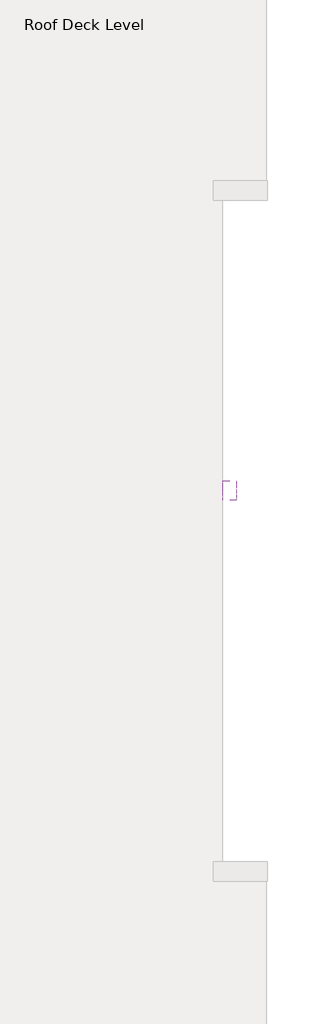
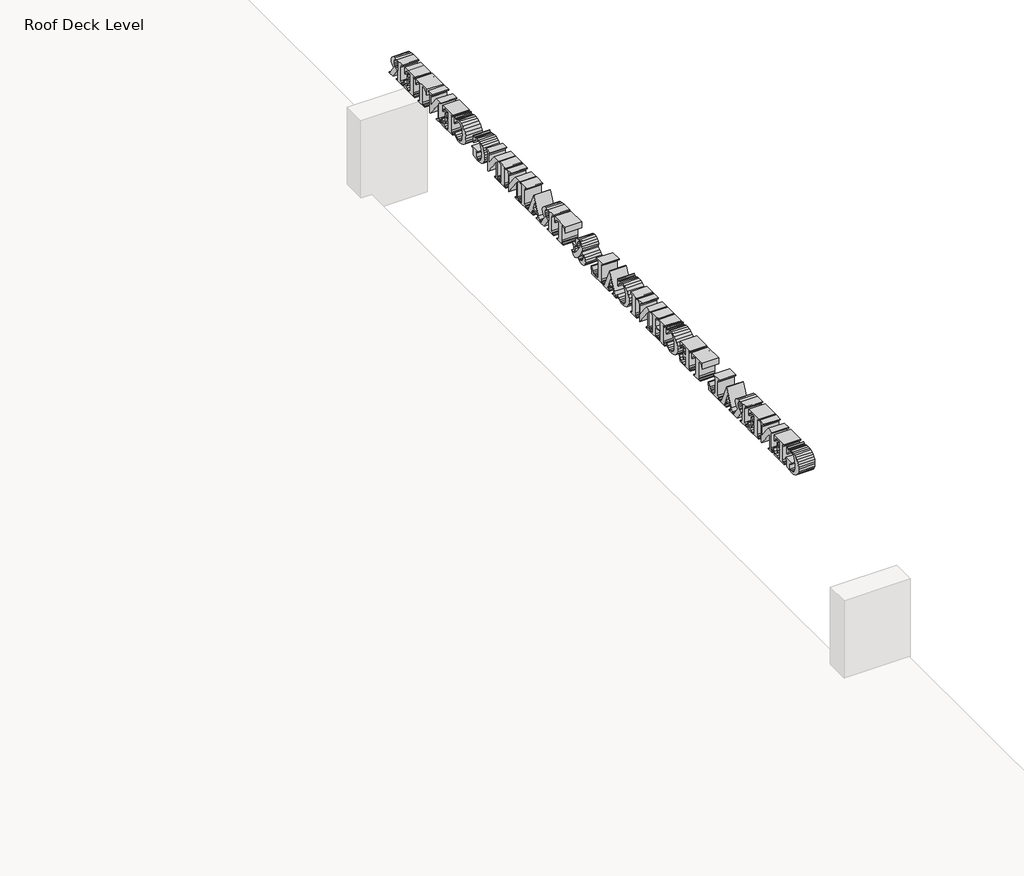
# One storey, part 2 of 2: 1 proxy.
"""IFC4 building model written with IfcOpenShell, lengths in millimetres."""

import ifcopenshell
import ifcopenshell.guid

model = None  # the IFC model being written
_history = None  # IfcOwnerHistory: only IFC2X3 demands one
_inside = {}  # id of a spatial element -> (the spatial element, [elements in it])
_under = {}  # id of a project, library or spatial element -> (it, [spatial elements below it])
_declared = {}  # id of a project -> (the project, [libraries it declares])
_typed = {}  # id of a type object -> (the type object, [elements of that type])
_made_of = {}  # id of a material, layer set ... -> (it, [elements and type objects made of it])


def new_model(schema):
    """Start an empty IFC model of exactly this schema.

    Asked for "IFC4X3", IfcOpenShell would pick the latest addendum, in which some entities
    have other attributes; the version numbers below select the first issue.
    IFC2X3 requires an IfcOwnerHistory on every rooted entity: one is made here for all.
    """
    global model, _history
    if schema == "IFC4X3":
        model = ifcopenshell.file(schema_version=(4, 3, 0, 0))
    else:
        model = ifcopenshell.file(schema=schema)
    _inside.clear()
    _under.clear()
    _declared.clear()
    _typed.clear()
    _made_of.clear()
    _history = None
    if model.schema == "IFC2X3":
        org = make("IfcOrganization", Name="unknown")
        user = make(
            "IfcPersonAndOrganization",
            ThePerson=make("IfcPerson", FamilyName="unknown"),
            TheOrganization=org,
        )
        app = make(
            "IfcApplication",
            ApplicationDeveloper=org,
            Version="unknown",
            ApplicationFullName="unknown",
            ApplicationIdentifier="unknown",
        )
        _history = make(
            "IfcOwnerHistory",
            OwningUser=user,
            OwningApplication=app,
            ChangeAction="ADDED",
            CreationDate=0,
        )
    return model


def make(cls, **values):
    """One entity of the class cls with the attributes given. An attribute that is None is left unset."""
    return model.create_entity(
        cls, **{name: value for name, value in values.items() if value is not None}
    )


def rooted(cls, **values):
    """An entity with a GlobalId (a new one), such as an element, a storey or a relation."""
    return make(cls, GlobalId=ifcopenshell.guid.new(), OwnerHistory=_history, **values)


def si_unit(unit_type, name, prefix=None):
    """IfcSIUnit, for example si_unit("LENGTHUNIT", "METRE", prefix="MILLI")."""
    return make("IfcSIUnit", UnitType=unit_type, Prefix=prefix, Name=name)


def assignment(units):
    """IfcUnitAssignment: the units of a project."""
    return None if units is None else make("IfcUnitAssignment", Units=units)


def point(xyz):
    """IfcCartesianPoint."""
    return None if xyz is None else make("IfcCartesianPoint", Coordinates=xyz)


def direction(xyz):
    """IfcDirection."""
    return None if xyz is None else make("IfcDirection", DirectionRatios=xyz)


def frame(location, z_axis=None, x_axis=None):
    """IfcAxis2Placement3D, a coordinate frame: its origin and axes. An axis left out is left unset."""
    return make(
        "IfcAxis2Placement3D",
        Location=point(location),
        Axis=direction(z_axis),
        RefDirection=direction(x_axis),
    )


def origin():
    """The frame at (0, 0, 0) with its axes left unset."""
    return frame((0.0, 0.0, 0.0))


def place(relative_to, where):
    """IfcLocalPlacement: puts the frame where relative to a parent placement (None: the world)."""
    return make(
        "IfcLocalPlacement", PlacementRelTo=relative_to, RelativePlacement=where
    )


def context(
    kind, dimensions, precision=None, world=None, true_north=None, identifier=None
):
    """IfcGeometricRepresentationContext, for example the 3D "Model" context."""
    return make(
        "IfcGeometricRepresentationContext",
        ContextIdentifier=identifier,
        ContextType=kind,
        CoordinateSpaceDimension=dimensions,
        Precision=precision,
        WorldCoordinateSystem=world,
        TrueNorth=true_north,
    )


def project(units=None, contexts=None):
    """IfcProject with its units and contexts."""
    return rooted(
        "IfcProject",
        Name="project",
        RepresentationContexts=contexts,
        UnitsInContext=assignment(units),
    )


def spatial(cls, under=None, at=None, **own):
    """A site, building, storey or space (cls), placed at a placement, below another one or the project."""
    s = rooted(cls, ObjectPlacement=at, **own)
    if under is not None:
        _under.setdefault(under.id(), (under, []))[1].append(s)
    return s


def polyline(points):
    """IfcPolyline through the points."""
    return make("IfcPolyline", Points=[point(p) for p in points])


def outline(outer, holes=None, kind="AREA"):
    """IfcArbitraryClosedProfileDef: a profile drawn as a closed curve; with holes, ...WithVoids."""
    if holes is None:
        return make("IfcArbitraryClosedProfileDef", ProfileType=kind, OuterCurve=outer)
    return make(
        "IfcArbitraryProfileDefWithVoids",
        ProfileType=kind,
        OuterCurve=outer,
        InnerCurves=holes,
    )


def extrude(swept, where, along, depth):
    """IfcExtrudedAreaSolid: the profile swept, set in the frame where, extruded along a direction by depth."""
    return make(
        "IfcExtrudedAreaSolid",
        SweptArea=swept,
        Position=where,
        ExtrudedDirection=direction(along),
        Depth=depth,
    )


def shape(context_of_items, identifier, shape_type, items):
    """IfcShapeRepresentation: the items that make up one representation, for example the "Body"."""
    return make(
        "IfcShapeRepresentation",
        ContextOfItems=context_of_items,
        RepresentationIdentifier=identifier,
        RepresentationType=shape_type,
        Items=items,
    )


def made_of(thing, what):
    """Note that an element or type object is made of a material, layer set ...; save() writes the relation."""
    if what is not None:
        _made_of.setdefault(what.id(), (what, []))[1].append(thing)
    return thing


def element(
    cls,
    number,
    at=None,
    inside=None,
    cuts=None,
    type_object=None,
    material=None,
    context=None,
    identifier="Body",
    shape_type=None,
    held_by="IfcProductDefinitionShape",
    body=None,
    shapes=None,
    **own,
):
    """One element of the class cls, such as IfcWall. Its Tag is "e" and its number.

    at: its placement. inside: the storey or other place that contains it. cuts: it is an
    opening in that element (IfcRelVoidsElement). A single representation is given by context,
    identifier, shape_type and body (its items); several are given by shapes. held_by: the class
    of the entity that holds the representations. save() writes the other relations.
    """
    e = rooted(cls, Tag="e%d" % number, ObjectPlacement=at, **own)
    if body is not None:
        shapes = [shape(context, identifier, shape_type, body)]
    if shapes is not None:
        e.Representation = make(held_by, Representations=shapes)
    if inside is not None:
        _inside.setdefault(inside.id(), (inside, []))[1].append(e)
    if cuts is not None:
        rooted(
            "IfcRelVoidsElement", RelatingBuildingElement=cuts, RelatedOpeningElement=e
        )
    if type_object is not None:
        _typed.setdefault(type_object.id(), (type_object, []))[1].append(e)
    return made_of(e, material)


def aggregate(whole, parts):
    """IfcRelAggregates: a whole, such as a stair, and the parts it consists of."""
    return rooted("IfcRelAggregates", RelatingObject=whole, RelatedObjects=parts)


def save(model, path):
    """Write the relations noted so far, then the file.

    IfcRelAggregates (storeys below a building ...), IfcRelContainedInSpatialStructure (elements
    in a storey), IfcRelDefinesByType, IfcRelAssociatesMaterial and IfcRelDeclares: one each for
    every whole, place, type object, material and project.
    """
    for whole, parts in _under.values():
        aggregate(whole, parts)
    for where, things in _inside.values():
        rooted(
            "IfcRelContainedInSpatialStructure",
            RelatedElements=things,
            RelatingStructure=where,
        )
    for kind, things in _typed.values():
        rooted("IfcRelDefinesByType", RelatedObjects=things, RelatingType=kind)
    for what, things in _made_of.values():
        rooted("IfcRelAssociatesMaterial", RelatedObjects=things, RelatingMaterial=what)
    for by, libraries in _declared.values():
        rooted("IfcRelDeclares", RelatingContext=by, RelatedDefinitions=libraries)
    model.write(path)


model = new_model("IFC4")

# Units and contexts
model_context = context("Model", 3, world=origin())
ifc_project = project(units=[si_unit("LENGTHUNIT", "METRE", prefix="MILLI")], contexts=[model_context])

# Site, building, storey
site = spatial("IfcSite", under=ifc_project)
building = spatial("IfcBuilding", under=site)
storey = spatial("IfcBuildingStorey", under=building, Name="Roof Deck Level", Elevation=4400.0)

# Proxy
placement = place(None, origin())
element("IfcBuildingElementProxy", 1, Name="250mm Arial", ObjectType="250mm Arial", at=placement, inside=storey, context=model_context, shape_type="SweptSolid", body=[
    extrude(outline(polyline([(-15164.0733231, 6092.9041476), (-15164.0733231, 6026.2374809), (-15170.7399897, 6026.2374809), (-15182.1267085, 6050.6710747), (-15198.0576981, 6068.4510226), (-15217.1136877, 6079.2908663), (-15237.8754064, 6082.9041476), (-15256.8142085, 6079.8051893), (-15272.2764481, 6070.5083143), (-15283.9951981, 6055.6710747), (-15291.7035314, 6035.9510226), (-15297.4066564, 5990.4562309), (-15295.8571772, 5963.9197726), (-15291.2087397, 5940.8728976), (-15283.1162918, 5922.3963351), (-15271.2347814, 5909.5708143), (-15256.150146, 5902.0708143), (-15238.4483231, 5899.5708143), (-15224.9587397, 5901.1072726), (-15210.7399897, 5905.5603976), (-15210.7399897, 5949.5708143), (-15212.4066564, 5962.1228976), (-15219.3337397, 5967.2791476), (-15232.0941564, 5969.5708143), (-15237.4066564, 5969.5708143), (-15237.4066564, 5976.2374809), (-15140.7399897, 5976.2374809), (-15140.7399897, 5969.5708143), (-15156.0785314, 5967.0708143), (-15162.7712397, 5960.8208143), (-15164.0733231, 5949.5708143), (-15164.0733231, 5905.5603976), (-15202.0420731, 5893.6072726), (-15242.9274897, 5889.5708143), (-15267.7517085, 5891.4523247), (-15287.9535314, 5897.0968559), (-15319.5160314, 5916.8624809), (-15331.697021, 5929.8702934), (-15340.8962397, 5944.4145643), (-15348.2790522, 5965.3520643), (-15350.7399897, 5988.6853976), (-15348.8698726, 6009.7368299), (-15343.259521, 6029.0890434), (-15333.9089351, 6046.7420382), (-15320.8181147, 6062.6958143), (-15304.8887528, 6075.9119601), (-15287.0225418, 6085.3520643), (-15267.2194819, 6091.0161268), (-15245.4795731, 6092.9041476), (-15220.1670731, 6090.7687309), (-15200.3233231, 6084.6228976), (-15184.1254064, 6079.5708143), (-15176.8597814, 6082.3572726), (-15170.7399897, 6092.9041476), (-15164.0733231, 6092.9041476)])), frame((15562.7672395, 0.0, 0.0), z_axis=(1.0, 0.0, 0.0), x_axis=(0.0, 1.0, 0.0)), (0.0, 0.0, 1.0), 150.0),
    extrude(outline(polyline([(-15050.7399897, 6076.2374809), (-15050.7399897, 5996.2374809), (-15047.3024897, 5996.2374809), (-15033.1488439, 5999.1932101), (-15023.5004064, 6008.0603976), (-15017.4457189, 6022.6827934), (-15014.0733231, 6042.9041476), (-15007.4066564, 6042.9041476), (-15007.4066564, 5939.5708143), (-15014.0733231, 5939.5708143), (-15020.5056147, 5967.7218559), (-15031.9118647, 5982.4614393), (-15050.7399897, 5986.2374809), (-15050.7399897, 5930.9770643), (-15049.4118647, 5911.1593559), (-15044.4379064, 5905.2218559), (-15032.7191564, 5902.9041476), (-15021.3649897, 5902.9041476), (-14997.4392085, 5906.1984184), (-14978.7868647, 5916.0812309), (-14965.0303543, 5932.4874809), (-14955.7920731, 5955.3520643), (-14950.7399897, 5955.3520643), (-14959.3337397, 5892.9041476), (-15124.0733231, 5892.9041476), (-15124.0733231, 5899.5708143), (-15117.7712397, 5899.5708143), (-15104.5420731, 5902.4353976), (-15098.9170731, 5908.9978976), (-15097.4066564, 5926.2374809), (-15097.4066564, 6056.2374809), (-15098.0837397, 6071.7062309), (-15103.2920731, 6079.0499809), (-15117.7712397, 6082.9041476), (-15124.0733231, 6082.9041476), (-15124.0733231, 6089.5708143), (-14964.0733231, 6089.5708143), (-14964.0733231, 6029.5708143), (-14970.7399897, 6029.5708143), (-14975.7530106, 6047.8195122), (-14982.4587397, 6060.0656059), (-14991.5863439, 6068.0799288), (-15003.8649897, 6073.6333143), (-15034.0733231, 6076.2374809), (-15050.7399897, 6076.2374809)])), frame((15562.7672395, 0.0, 0.0), z_axis=(1.0, 0.0, 0.0), x_axis=(0.0, 1.0, 0.0)), (0.0, 0.0, 1.0), 150.0),
    extrude(outline(polyline([(-14862.3024897, 6089.5708143), (-14770.7399897, 5972.7478976), (-14770.7399897, 6049.5708143), (-14771.9248856, 6064.9874809), (-14775.4795731, 6074.4666476), (-14784.2425939, 6080.9510226), (-14797.4066564, 6082.9041476), (-14797.4066564, 6089.5708143), (-14730.7399897, 6089.5708143), (-14730.7399897, 6082.9041476), (-14748.0316564, 6078.6072726), (-14754.9326981, 6070.0135226), (-14757.4066564, 6049.5708143), (-14757.4066564, 5889.5708143), (-14763.5524897, 5889.5708143), (-14890.7399897, 6051.8624809), (-14890.7399897, 5926.2374809), (-14889.0277502, 5913.1059705), (-14883.8910314, 5905.0656059), (-14868.1879064, 5899.5708143), (-14864.0733231, 5899.5708143), (-14864.0733231, 5892.9041476), (-14930.7399897, 5892.9041476), (-14930.7399897, 5899.5708143), (-14918.0642085, 5901.191908), (-14909.9326981, 5905.7426893), (-14905.5381668, 5913.8741997), (-14904.0733231, 5926.2374809), (-14904.0733231, 6068.7895643), (-14906.7816564, 6072.2791476), (-14917.7972814, 6080.6385226), (-14931.5733231, 6082.9041476), (-14931.5733231, 6089.5708143), (-14862.3024897, 6089.5708143)])), frame((15562.7672395, 0.0, 0.0), z_axis=(1.0, 0.0, 0.0), x_axis=(0.0, 1.0, 0.0)), (0.0, 0.0, 1.0), 150.0),
    extrude(outline(polyline([(-14640.7399897, 6076.2374809), (-14640.7399897, 5996.2374809), (-14637.3024897, 5996.2374809), (-14623.1488439, 5999.1932101), (-14613.5004064, 6008.0603976), (-14607.4457189, 6022.6827934), (-14604.0733231, 6042.9041476), (-14597.4066564, 6042.9041476), (-14597.4066564, 5939.5708143), (-14604.0733231, 5939.5708143), (-14610.5056147, 5967.7218559), (-14621.9118647, 5982.4614393), (-14640.7399897, 5986.2374809), (-14640.7399897, 5930.9770643), (-14639.4118647, 5911.1593559), (-14634.4379064, 5905.2218559), (-14622.7191564, 5902.9041476), (-14611.3649897, 5902.9041476), (-14587.4392085, 5906.1984184), (-14568.7868647, 5916.0812309), (-14555.0303543, 5932.4874809), (-14545.7920731, 5955.3520643), (-14540.7399897, 5955.3520643), (-14549.3337397, 5892.9041476), (-14714.0733231, 5892.9041476), (-14714.0733231, 5899.5708143), (-14707.7712397, 5899.5708143), (-14694.5420731, 5902.4353976), (-14688.9170731, 5908.9978976), (-14687.4066564, 5926.2374809), (-14687.4066564, 6056.2374809), (-14688.0837397, 6071.7062309), (-14693.2920731, 6079.0499809), (-14707.7712397, 6082.9041476), (-14714.0733231, 6082.9041476), (-14714.0733231, 6089.5708143), (-14554.0733231, 6089.5708143), (-14554.0733231, 6029.5708143), (-14560.7399897, 6029.5708143), (-14565.7530106, 6047.8195122), (-14572.4587397, 6060.0656059), (-14581.5863439, 6068.0799288), (-14593.8649897, 6073.6333143), (-14624.0733231, 6076.2374809), (-14640.7399897, 6076.2374809)])), frame((15562.7672395, 0.0, 0.0), z_axis=(1.0, 0.0, 0.0), x_axis=(0.0, 1.0, 0.0)), (0.0, 0.0, 1.0), 150.0),
    extrude(outline(polyline([(-14447.4066564, 5982.9041476), (-14447.4066564, 5926.2374809), (-14445.4795731, 5907.8781059), (-14438.7347814, 5901.8364393), (-14420.7399897, 5899.5708143), (-14420.7399897, 5892.9041476), (-14520.7399897, 5892.9041476), (-14520.7399897, 5899.5708143), (-14502.6670731, 5901.8885226), (-14496.0004064, 5907.9301893), (-14494.0733231, 5926.2374809), (-14494.0733231, 6056.2374809), (-14496.0004064, 6074.5968559), (-14502.7451981, 6080.6385226), (-14520.7399897, 6082.9041476), (-14520.7399897, 6089.5708143), (-14429.8545731, 6089.5708143), (-14399.1449377, 6088.3598768), (-14377.9535314, 6084.7270643), (-14363.0316564, 6077.832533), (-14351.1306147, 6066.8364393), (-14343.337646, 6052.6632622), (-14340.7399897, 6036.2374809), (-14344.3988439, 6016.6932101), (-14355.3754064, 6000.8728976), (-14366.5733231, 5993.1255018), (-14381.5212397, 5987.5916476), (-14334.8545731, 5921.0812309), (-14323.0316564, 5904.6228976), (-14310.7399897, 5899.5708143), (-14310.7399897, 5892.9041476), (-14371.3649897, 5892.9041476), (-14434.4899897, 5982.9041476), (-14447.4066564, 5982.9041476)]), holes=[polyline([(-14447.4066564, 6079.5708143), (-14447.4066564, 5992.9041476), (-14439.1254064, 5992.9041476), (-14408.8910314, 5996.6281059), (-14399.9392085, 6001.8429497), (-14393.1358231, 6010.0395643), (-14388.8389481, 6021.2114393), (-14387.4066564, 6035.3520643), (-14390.0368647, 6055.0070122), (-14397.9274897, 6068.7635226), (-14411.6774897, 6076.8689913), (-14431.8858231, 6079.5708143), (-14447.4066564, 6079.5708143)])]), frame((15562.7672395, 0.0, 0.0), z_axis=(1.0, 0.0, 0.0), x_axis=(0.0, 1.0, 0.0)), (0.0, 0.0, 1.0), 150.0),
    extrude(outline(polyline([(-14189.2816564, 5949.5708143), (-14256.1566564, 5949.5708143), (-14265.2191564, 5929.5708143), (-14269.2816564, 5914.5187309), (-14267.6149897, 5907.6567518), (-14262.6149897, 5902.9041476), (-14243.3441564, 5899.5708143), (-14243.3441564, 5892.9041476), (-14310.1670731, 5892.9041476), (-14310.1670731, 5899.5708143), (-14300.5381668, 5902.5005018), (-14292.7972814, 5908.1645643), (-14276.0004064, 5937.2270643), (-14205.2191564, 6092.9041476), (-14201.8337397, 6092.9041476), (-14131.3129064, 5932.8520643), (-14114.6462397, 5904.6749809), (-14100.7399897, 5899.5708143), (-14100.7399897, 5892.9041476), (-14196.2608231, 5892.9041476), (-14196.2608231, 5899.5708143), (-14192.3545731, 5899.5708143), (-14176.2608231, 5902.6437309), (-14173.0837397, 5908.9978976), (-14173.9691564, 5914.1541476), (-14178.2920731, 5924.5708143), (-14189.2816564, 5949.5708143)]), holes=[polyline([(-14195.1149897, 5962.9041476), (-14222.2504064, 6024.3624809), (-14250.1149897, 5962.9041476), (-14195.1149897, 5962.9041476)])]), frame((15562.7672395, 0.0, 0.0), z_axis=(1.0, 0.0, 0.0), x_axis=(0.0, 1.0, 0.0)), (0.0, 0.0, 1.0), 150.0),
    extrude(outline(polyline([(-13910.7399897, 5966.2374809), (-13917.4066564, 5892.9041476), (-14090.7399897, 5892.9041476), (-14090.7399897, 5899.5708143), (-14084.4379064, 5899.5708143), (-14071.2087397, 5902.4353976), (-14065.5837397, 5908.9978976), (-14064.0733231, 5926.2374809), (-14064.0733231, 6056.2374809), (-14065.6097814, 6074.0239393), (-14071.8337397, 6080.2478976), (-14084.4379064, 6082.9041476), (-14090.7399897, 6082.9041476), (-14090.7399897, 6089.5708143), (-13990.7399897, 6089.5708143), (-13990.7399897, 6082.9041476), (-13998.3962397, 6082.9041476), (-14010.6879064, 6080.0395643), (-14016.0004064, 6073.4770643), (-14017.4066564, 6056.2374809), (-14017.4066564, 5932.5916476), (-14015.6879064, 5913.6072726), (-14008.9170731, 5907.5395643), (-13991.5733231, 5906.2374809), (-13975.3754064, 5906.2374809), (-13961.1566564, 5907.6632622), (-13949.5420731, 5911.9406059), (-13939.9196772, 5919.2908663), (-13931.6774897, 5929.9353976), (-13917.4066564, 5966.2374809), (-13910.7399897, 5966.2374809)])), frame((15562.7672395, 0.0, 0.0), z_axis=(1.0, 0.0, 0.0), x_axis=(0.0, 1.0, 0.0)), (0.0, 0.0, 1.0), 150.0),
    extrude(outline(polyline([(-13644.0733231, 6089.5708143), (-13644.0733231, 6032.9041476), (-13650.7399897, 6032.9041476), (-13660.6358231, 6060.2739393), (-13675.5316564, 6073.5291476), (-13694.0733231, 6076.2374809), (-13707.4066564, 6076.2374809), (-13707.4066564, 5926.2374809), (-13705.8181147, 5908.4510226), (-13699.5941564, 5902.2270643), (-13686.9379064, 5899.5708143), (-13680.7399897, 5899.5708143), (-13680.7399897, 5892.9041476), (-13780.7399897, 5892.9041476), (-13780.7399897, 5899.5708143), (-13774.4899897, 5899.5708143), (-13761.3129064, 5902.4353976), (-13755.5837397, 5908.9978976), (-13754.0733231, 5926.2374809), (-13754.0733231, 6076.2374809), (-13767.4066564, 6076.2374809), (-13783.9951981, 6074.0630018), (-13795.3233231, 6067.5395643), (-13805.2712397, 6052.8130018), (-13810.7399897, 6032.9041476), (-13817.4066564, 6032.9041476), (-13817.4066564, 6089.5708143), (-13644.0733231, 6089.5708143)])), frame((15562.7672395, 0.0, 0.0), z_axis=(1.0, 0.0, 0.0), x_axis=(0.0, 1.0, 0.0)), (0.0, 0.0, 1.0), 150.0),
    extrude(outline(polyline([(-13550.7399897, 6076.2374809), (-13550.7399897, 5996.2374809), (-13547.3024897, 5996.2374809), (-13533.1488439, 5999.1932101), (-13523.5004064, 6008.0603976), (-13517.4457189, 6022.6827934), (-13514.0733231, 6042.9041476), (-13507.4066564, 6042.9041476), (-13507.4066564, 5939.5708143), (-13514.0733231, 5939.5708143), (-13520.5056147, 5967.7218559), (-13531.9118647, 5982.4614393), (-13550.7399897, 5986.2374809), (-13550.7399897, 5930.9770643), (-13549.4118647, 5911.1593559), (-13544.4379064, 5905.2218559), (-13532.7191564, 5902.9041476), (-13521.3649897, 5902.9041476), (-13497.4392085, 5906.1984184), (-13478.7868647, 5916.0812309), (-13465.0303543, 5932.4874809), (-13455.7920731, 5955.3520643), (-13450.7399897, 5955.3520643), (-13459.3337397, 5892.9041476), (-13624.0733231, 5892.9041476), (-13624.0733231, 5899.5708143), (-13617.7712397, 5899.5708143), (-13604.5420731, 5902.4353976), (-13598.9170731, 5908.9978976), (-13597.4066564, 5926.2374809), (-13597.4066564, 6056.2374809), (-13598.0837397, 6071.7062309), (-13603.2920731, 6079.0499809), (-13617.7712397, 6082.9041476), (-13624.0733231, 6082.9041476), (-13624.0733231, 6089.5708143), (-13464.0733231, 6089.5708143), (-13464.0733231, 6029.5708143), (-13470.7399897, 6029.5708143), (-13475.7530106, 6047.8195122), (-13482.4587397, 6060.0656059), (-13491.5863439, 6068.0799288), (-13503.8649897, 6073.6333143), (-13534.0733231, 6076.2374809), (-13550.7399897, 6076.2374809)])), frame((15562.7672395, 0.0, 0.0), z_axis=(1.0, 0.0, 0.0), x_axis=(0.0, 1.0, 0.0)), (0.0, 0.0, 1.0), 150.0),
    extrude(outline(polyline([(-13240.7399897, 6092.9041476), (-13240.7399897, 6026.2374809), (-13247.4066564, 6026.2374809), (-13256.150146, 6049.0499809), (-13270.1931147, 6065.8208143), (-13287.9991043, 6076.1333143), (-13308.0316564, 6079.5708143), (-13324.9587397, 6076.9601372), (-13340.4274897, 6069.1281059), (-13353.1879064, 6057.0643038), (-13361.9899897, 6041.7583143), (-13368.5524897, 6018.9327934), (-13370.7399897, 5993.6853976), (-13369.1254064, 5968.770033), (-13364.2816564, 5946.2114393), (-13356.0004064, 5927.4353976), (-13344.0733231, 5913.8676893), (-13328.2920731, 5905.645033), (-13308.4483231, 5902.9041476), (-13291.2412918, 5904.9158663), (-13275.5576981, 5910.9510226), (-13260.2256668, 5921.9210747), (-13244.0733231, 5938.7374809), (-13244.0733231, 5921.8103976), (-13260.6618647, 5907.1684705), (-13277.9274897, 5897.2010226), (-13297.0030106, 5891.4783663), (-13319.0212397, 5889.5708143), (-13348.2269689, 5892.6893038), (-13373.9691564, 5902.0447726), (-13395.2386877, 5917.2465955), (-13411.0264481, 5937.9041476), (-13420.8116043, 5962.0317518), (-13424.0733231, 5987.6437309), (-13420.4795731, 6014.7400851), (-13409.6983231, 6040.4041476), (-13392.8037918, 6062.5590955), (-13370.8701981, 6079.1281059), (-13345.6683752, 6089.4601372), (-13318.9691564, 6092.9041476), (-13298.1358231, 6090.7947726), (-13276.1566564, 6084.4666476), (-13259.5941564, 6079.5708143), (-13251.7295731, 6082.7739393), (-13247.4066564, 6092.9041476), (-13240.7399897, 6092.9041476)])), frame((15562.7672395, 0.0, 0.0), z_axis=(1.0, 0.0, 0.0), x_axis=(0.0, 1.0, 0.0)), (0.0, 0.0, 1.0), 150.0),
    extrude(outline(polyline([(-13144.0733231, 5986.2374809), (-13144.0733231, 5926.2374809), (-13142.4847814, 5908.4510226), (-13136.2347814, 5902.2270643), (-13123.6566564, 5899.5708143), (-13117.4066564, 5899.5708143), (-13117.4066564, 5892.9041476), (-13217.4066564, 5892.9041476), (-13217.4066564, 5899.5708143), (-13211.1045731, 5899.5708143), (-13197.8754064, 5902.4353976), (-13192.2504064, 5908.9978976), (-13190.7399897, 5926.2374809), (-13190.7399897, 6056.2374809), (-13192.2764481, 6074.0239393), (-13198.5004064, 6080.2478976), (-13211.1045731, 6082.9041476), (-13217.4066564, 6082.9041476), (-13217.4066564, 6089.5708143), (-13117.4066564, 6089.5708143), (-13117.4066564, 6082.9041476), (-13123.6566564, 6082.9041476), (-13136.8337397, 6080.0395643), (-13142.5629064, 6073.4770643), (-13144.0733231, 6056.2374809), (-13144.0733231, 5999.5708143), (-13074.0733231, 5999.5708143), (-13074.0733231, 6056.2374809), (-13075.6097814, 6074.0239393), (-13081.8858231, 6080.2478976), (-13094.5941564, 6082.9041476), (-13100.7399897, 6082.9041476), (-13100.7399897, 6089.5708143), (-13000.7399897, 6089.5708143), (-13000.7399897, 6082.9041476), (-13006.8858231, 6082.9041476), (-13020.1670731, 6080.0395643), (-13025.8962397, 6073.4770643), (-13027.4066564, 6056.2374809), (-13027.4066564, 5926.2374809), (-13025.8701981, 5908.4510226), (-13019.5941564, 5902.2270643), (-13006.8858231, 5899.5708143), (-13000.7399897, 5899.5708143), (-13000.7399897, 5892.9041476), (-13100.7399897, 5892.9041476), (-13100.7399897, 5899.5708143), (-13094.5941564, 5899.5708143), (-13081.3129064, 5902.4353976), (-13075.5837397, 5908.9978976), (-13074.0733231, 5926.2374809), (-13074.0733231, 5986.2374809), (-13144.0733231, 5986.2374809)])), frame((15562.7672395, 0.0, 0.0), z_axis=(1.0, 0.0, 0.0), x_axis=(0.0, 1.0, 0.0)), (0.0, 0.0, 1.0), 150.0),
    extrude(outline(polyline([(-12918.9691564, 6089.5708143), (-12827.4066564, 5972.7478976), (-12827.4066564, 6049.5708143), (-12828.5915522, 6064.9874809), (-12832.1462397, 6074.4666476), (-12840.9092606, 6080.9510226), (-12854.0733231, 6082.9041476), (-12854.0733231, 6089.5708143), (-12787.4066564, 6089.5708143), (-12787.4066564, 6082.9041476), (-12804.6983231, 6078.6072726), (-12811.5993647, 6070.0135226), (-12814.0733231, 6049.5708143), (-12814.0733231, 5889.5708143), (-12820.2191564, 5889.5708143), (-12947.4066564, 6051.8624809), (-12947.4066564, 5926.2374809), (-12945.6944168, 5913.1059705), (-12940.5576981, 5905.0656059), (-12924.8545731, 5899.5708143), (-12920.7399897, 5899.5708143), (-12920.7399897, 5892.9041476), (-12987.4066564, 5892.9041476), (-12987.4066564, 5899.5708143), (-12974.7308752, 5901.191908), (-12966.5993647, 5905.7426893), (-12962.2048335, 5913.8741997), (-12960.7399897, 5926.2374809), (-12960.7399897, 6068.7895643), (-12963.4483231, 6072.2791476), (-12974.4639481, 6080.6385226), (-12988.2399897, 6082.9041476), (-12988.2399897, 6089.5708143), (-12918.9691564, 6089.5708143)])), frame((15562.7672395, 0.0, 0.0), z_axis=(1.0, 0.0, 0.0), x_axis=(0.0, 1.0, 0.0)), (0.0, 0.0, 1.0), 150.0),
    extrude(outline(polyline([(-12670.7399897, 5899.5708143), (-12670.7399897, 5892.9041476), (-12770.7399897, 5892.9041476), (-12770.7399897, 5899.5708143), (-12764.4379064, 5899.5708143), (-12751.2087397, 5902.4353976), (-12745.5837397, 5908.9978976), (-12744.0733231, 5926.2374809), (-12744.0733231, 6056.2374809), (-12745.6097814, 6074.0239393), (-12751.8337397, 6080.2478976), (-12764.4379064, 6082.9041476), (-12770.7399897, 6082.9041476), (-12770.7399897, 6089.5708143), (-12670.7399897, 6089.5708143), (-12670.7399897, 6082.9041476), (-12676.9899897, 6082.9041476), (-12690.1670731, 6080.0395643), (-12695.8962397, 6073.4770643), (-12697.4066564, 6056.2374809), (-12697.4066564, 5926.2374809), (-12695.8181147, 5908.4510226), (-12689.5681147, 5902.2270643), (-12676.9899897, 5899.5708143), (-12670.7399897, 5899.5708143)])), frame((15562.7672395, 0.0, 0.0), z_axis=(1.0, 0.0, 0.0), x_axis=(0.0, 1.0, 0.0)), (0.0, 0.0, 1.0), 150.0),
    extrude(outline(polyline([(-12467.4066564, 6092.9041476), (-12467.4066564, 6026.2374809), (-12474.0733231, 6026.2374809), (-12482.8168127, 6049.0499809), (-12496.8597814, 6065.8208143), (-12514.665771, 6076.1333143), (-12534.6983231, 6079.5708143), (-12551.6254064, 6076.9601372), (-12567.0941564, 6069.1281059), (-12579.8545731, 6057.0643038), (-12588.6566564, 6041.7583143), (-12595.2191564, 6018.9327934), (-12597.4066564, 5993.6853976), (-12595.7920731, 5968.770033), (-12590.9483231, 5946.2114393), (-12582.6670731, 5927.4353976), (-12570.7399897, 5913.8676893), (-12554.9587397, 5905.645033), (-12535.1149897, 5902.9041476), (-12517.9079585, 5904.9158663), (-12502.2243647, 5910.9510226), (-12486.8923335, 5921.9210747), (-12470.7399897, 5938.7374809), (-12470.7399897, 5921.8103976), (-12487.3285314, 5907.1684705), (-12504.5941564, 5897.2010226), (-12523.6696772, 5891.4783663), (-12545.6879064, 5889.5708143), (-12574.8936356, 5892.6893038), (-12600.6358231, 5902.0447726), (-12621.9053543, 5917.2465955), (-12637.6931147, 5937.9041476), (-12647.478271, 5962.0317518), (-12650.7399897, 5987.6437309), (-12647.1462397, 6014.7400851), (-12636.3649897, 6040.4041476), (-12619.4704585, 6062.5590955), (-12597.5368647, 6079.1281059), (-12572.3350418, 6089.4601372), (-12545.6358231, 6092.9041476), (-12524.8024897, 6090.7947726), (-12502.8233231, 6084.4666476), (-12486.2608231, 6079.5708143), (-12478.3962397, 6082.7739393), (-12474.0733231, 6092.9041476), (-12467.4066564, 6092.9041476)])), frame((15562.7672395, 0.0, 0.0), z_axis=(1.0, 0.0, 0.0), x_axis=(0.0, 1.0, 0.0)), (0.0, 0.0, 1.0), 150.0),
    extrude(outline(polyline([(-12325.9483231, 5949.5708143), (-12392.8233231, 5949.5708143), (-12401.8858231, 5929.5708143), (-12405.9483231, 5914.5187309), (-12404.2816564, 5907.6567518), (-12399.2816564, 5902.9041476), (-12380.0108231, 5899.5708143), (-12380.0108231, 5892.9041476), (-12446.8337397, 5892.9041476), (-12446.8337397, 5899.5708143), (-12437.2048335, 5902.5005018), (-12429.4639481, 5908.1645643), (-12412.6670731, 5937.2270643), (-12341.8858231, 6092.9041476), (-12338.5004064, 6092.9041476), (-12267.9795731, 5932.8520643), (-12251.3129064, 5904.6749809), (-12237.4066564, 5899.5708143), (-12237.4066564, 5892.9041476), (-12332.9274897, 5892.9041476), (-12332.9274897, 5899.5708143), (-12329.0212397, 5899.5708143), (-12312.9274897, 5902.6437309), (-12309.7504064, 5908.9978976), (-12310.6358231, 5914.1541476), (-12314.9587397, 5924.5708143), (-12325.9483231, 5949.5708143)]), holes=[polyline([(-12331.7816564, 5962.9041476), (-12358.9170731, 6024.3624809), (-12386.7816564, 5962.9041476), (-12331.7816564, 5962.9041476)])]), frame((15562.7672395, 0.0, 0.0), z_axis=(1.0, 0.0, 0.0), x_axis=(0.0, 1.0, 0.0)), (0.0, 0.0, 1.0), 150.0),
    extrude(outline(polyline([(-12047.4066564, 5966.2374809), (-12054.0733231, 5892.9041476), (-12227.4066564, 5892.9041476), (-12227.4066564, 5899.5708143), (-12221.1045731, 5899.5708143), (-12207.8754064, 5902.4353976), (-12202.2504064, 5908.9978976), (-12200.7399897, 5926.2374809), (-12200.7399897, 6056.2374809), (-12202.2764481, 6074.0239393), (-12208.5004064, 6080.2478976), (-12221.1045731, 6082.9041476), (-12227.4066564, 6082.9041476), (-12227.4066564, 6089.5708143), (-12127.4066564, 6089.5708143), (-12127.4066564, 6082.9041476), (-12135.0629064, 6082.9041476), (-12147.3545731, 6080.0395643), (-12152.6670731, 6073.4770643), (-12154.0733231, 6056.2374809), (-12154.0733231, 5932.5916476), (-12152.3545731, 5913.6072726), (-12145.5837397, 5907.5395643), (-12128.2399897, 5906.2374809), (-12112.0420731, 5906.2374809), (-12097.8233231, 5907.6632622), (-12086.2087397, 5911.9406059), (-12076.5863439, 5919.2908663), (-12068.3441564, 5929.9353976), (-12054.0733231, 5966.2374809), (-12047.4066564, 5966.2374809)])), frame((15562.7672395, 0.0, 0.0), z_axis=(1.0, 0.0, 0.0), x_axis=(0.0, 1.0, 0.0)), (0.0, 0.0, 1.0), 150.0),
    extrude(outline(polyline([(-11800.7399897, 6009.5708143), (-11740.7399897, 6009.5708143), (-11740.7399897, 6002.9041476), (-11755.0629064, 5997.2531059), (-11768.6045731, 5977.3312309), (-11792.0420731, 5942.3833143), (-11770.1149897, 5923.3208143), (-11758.4483231, 5919.5708143), (-11749.1254064, 5923.0864393), (-11740.7399897, 5933.6333143), (-11734.0733231, 5930.4562309), (-11746.1826981, 5910.3520643), (-11759.0733231, 5897.0187309), (-11769.9326981, 5891.4327934), (-11782.1983231, 5889.5708143), (-11803.4222814, 5894.5968559), (-11827.9274897, 5913.4770643), (-11861.7035314, 5895.2218559), (-11894.5941564, 5889.5708143), (-11919.0863439, 5893.2817518), (-11937.9795731, 5904.4145643), (-11950.0498856, 5920.5473768), (-11954.0733231, 5939.2583143), (-11950.1866043, 5959.4666476), (-11938.5264481, 5976.8624809), (-11919.4574377, 5991.7713351), (-11893.3441564, 6004.5187309), (-11898.8910314, 6022.6176893), (-11900.7399897, 6039.7270643), (-11896.6254064, 6060.6320122), (-11884.2816564, 6077.7218559), (-11865.5316564, 6089.1085747), (-11842.1983231, 6092.9041476), (-11823.7087397, 6090.4366997), (-11809.4899897, 6083.0343559), (-11800.4274897, 6072.3377413), (-11797.4066564, 6059.9874809), (-11800.3168127, 6045.2934705), (-11809.0472814, 6032.8781059), (-11824.0798335, 6022.0773247), (-11845.8962397, 6012.2270643), (-11826.0785314, 5982.7999809), (-11798.8129064, 5951.1853976), (-11787.8754064, 5971.5109184), (-11784.2295731, 5988.7374809), (-11788.4222814, 5998.2166476), (-11800.7399897, 6002.9041476), (-11800.7399897, 6009.5708143)]), holes=[polyline([(-11889.3337397, 5995.4041476), (-11906.7816564, 5985.1437309), (-11912.2504064, 5976.7062309), (-11914.0733231, 5967.3312309), (-11912.087646, 5953.9783663), (-11906.1306147, 5940.6906059), (-11897.3610835, 5928.9327934), (-11886.9379064, 5920.1697726), (-11875.6879064, 5914.7205538), (-11864.4379064, 5912.9041476), (-11851.9899897, 5915.2739393), (-11836.8858231, 5922.3312309), (-11867.1332189, 5958.2036268), (-11889.3337397, 5995.4041476)]), polyline([(-11851.7816564, 6019.8312309), (-11832.3545731, 6031.4197726), (-11827.4066564, 6046.2895643), (-11829.5941564, 6060.5994601), (-11836.1566564, 6072.4874809), (-11842.6540522, 6077.7999809), (-11850.4795731, 6079.5708143), (-11862.4326981, 6074.4406059), (-11867.4066564, 6060.5603976), (-11864.6983231, 6046.0291476), (-11851.7816564, 6019.8312309)])]), frame((15562.7672395, 0.0, 0.0), z_axis=(1.0, 0.0, 0.0), x_axis=(0.0, 1.0, 0.0)), (0.0, 0.0, 1.0), 150.0),
    extrude(outline(polyline([(-11460.7399897, 6089.5708143), (-11460.7399897, 6032.9041476), (-11467.4066564, 6032.9041476), (-11477.3024897, 6060.2739393), (-11492.1983231, 6073.5291476), (-11510.7399897, 6076.2374809), (-11524.0733231, 6076.2374809), (-11524.0733231, 5926.2374809), (-11522.4847814, 5908.4510226), (-11516.2608231, 5902.2270643), (-11503.6045731, 5899.5708143), (-11497.4066564, 5899.5708143), (-11497.4066564, 5892.9041476), (-11597.4066564, 5892.9041476), (-11597.4066564, 5899.5708143), (-11591.1566564, 5899.5708143), (-11577.9795731, 5902.4353976), (-11572.2504064, 5908.9978976), (-11570.7399897, 5926.2374809), (-11570.7399897, 6076.2374809), (-11584.0733231, 6076.2374809), (-11600.6618647, 6074.0630018), (-11611.9899897, 6067.5395643), (-11621.9379064, 6052.8130018), (-11627.4066564, 6032.9041476), (-11634.0733231, 6032.9041476), (-11634.0733231, 6089.5708143), (-11460.7399897, 6089.5708143)])), frame((15562.7672395, 0.0, 0.0), z_axis=(1.0, 0.0, 0.0), x_axis=(0.0, 1.0, 0.0)), (0.0, 0.0, 1.0), 150.0),
    extrude(outline(polyline([(-11370.7399897, 5982.9041476), (-11370.7399897, 5926.2374809), (-11368.8129064, 5907.8781059), (-11362.0681147, 5901.8364393), (-11344.0733231, 5899.5708143), (-11344.0733231, 5892.9041476), (-11444.0733231, 5892.9041476), (-11444.0733231, 5899.5708143), (-11426.0004064, 5901.8885226), (-11419.3337397, 5907.9301893), (-11417.4066564, 5926.2374809), (-11417.4066564, 6056.2374809), (-11419.3337397, 6074.5968559), (-11426.0785314, 6080.6385226), (-11444.0733231, 6082.9041476), (-11444.0733231, 6089.5708143), (-11353.1879064, 6089.5708143), (-11322.478271, 6088.3598768), (-11301.2868647, 6084.7270643), (-11286.3649897, 6077.832533), (-11274.4639481, 6066.8364393), (-11266.6709793, 6052.6632622), (-11264.0733231, 6036.2374809), (-11267.7321772, 6016.6932101), (-11278.7087397, 6000.8728976), (-11289.9066564, 5993.1255018), (-11304.8545731, 5987.5916476), (-11258.1879064, 5921.0812309), (-11246.3649897, 5904.6228976), (-11234.0733231, 5899.5708143), (-11234.0733231, 5892.9041476), (-11294.6983231, 5892.9041476), (-11357.8233231, 5982.9041476), (-11370.7399897, 5982.9041476)]), holes=[polyline([(-11370.7399897, 6079.5708143), (-11370.7399897, 5992.9041476), (-11362.4587397, 5992.9041476), (-11332.2243647, 5996.6281059), (-11323.2725418, 6001.8429497), (-11316.4691564, 6010.0395643), (-11312.1722814, 6021.2114393), (-11310.7399897, 6035.3520643), (-11313.3701981, 6055.0070122), (-11321.2608231, 6068.7635226), (-11335.0108231, 6076.8689913), (-11355.2191564, 6079.5708143), (-11370.7399897, 6079.5708143)])]), frame((15562.7672395, 0.0, 0.0), z_axis=(1.0, 0.0, 0.0), x_axis=(0.0, 1.0, 0.0)), (0.0, 0.0, 1.0), 150.0),
    extrude(outline(polyline([(-11112.6149897, 5949.5708143), (-11179.4899897, 5949.5708143), (-11188.5524897, 5929.5708143), (-11192.6149897, 5914.5187309), (-11190.9483231, 5907.6567518), (-11185.9483231, 5902.9041476), (-11166.6774897, 5899.5708143), (-11166.6774897, 5892.9041476), (-11233.5004064, 5892.9041476), (-11233.5004064, 5899.5708143), (-11223.8715002, 5902.5005018), (-11216.1306147, 5908.1645643), (-11199.3337397, 5937.2270643), (-11128.5524897, 6092.9041476), (-11125.1670731, 6092.9041476), (-11054.6462397, 5932.8520643), (-11037.9795731, 5904.6749809), (-11024.0733231, 5899.5708143), (-11024.0733231, 5892.9041476), (-11119.5941564, 5892.9041476), (-11119.5941564, 5899.5708143), (-11115.6879064, 5899.5708143), (-11099.5941564, 5902.6437309), (-11096.4170731, 5908.9978976), (-11097.3024897, 5914.1541476), (-11101.6254064, 5924.5708143), (-11112.6149897, 5949.5708143)]), holes=[polyline([(-11118.4483231, 5962.9041476), (-11145.5837397, 6024.3624809), (-11173.4483231, 5962.9041476), (-11118.4483231, 5962.9041476)])]), frame((15562.7672395, 0.0, 0.0), z_axis=(1.0, 0.0, 0.0), x_axis=(0.0, 1.0, 0.0)), (0.0, 0.0, 1.0), 150.0),
    extrude(outline(polyline([(-10914.0733231, 5899.5708143), (-10914.0733231, 5892.9041476), (-11014.0733231, 5892.9041476), (-11014.0733231, 5899.5708143), (-11007.7712397, 5899.5708143), (-10994.5420731, 5902.4353976), (-10988.9170731, 5908.9978976), (-10987.4066564, 5926.2374809), (-10987.4066564, 6056.2374809), (-10988.9431147, 6074.0239393), (-10995.1670731, 6080.2478976), (-11007.7712397, 6082.9041476), (-11014.0733231, 6082.9041476), (-11014.0733231, 6089.5708143), (-10914.0733231, 6089.5708143), (-10914.0733231, 6082.9041476), (-10920.3233231, 6082.9041476), (-10933.5004064, 6080.0395643), (-10939.2295731, 6073.4770643), (-10940.7399897, 6056.2374809), (-10940.7399897, 5926.2374809), (-10939.1514481, 5908.4510226), (-10932.9014481, 5902.2270643), (-10920.3233231, 5899.5708143), (-10914.0733231, 5899.5708143)])), frame((15562.7672395, 0.0, 0.0), z_axis=(1.0, 0.0, 0.0), x_axis=(0.0, 1.0, 0.0)), (0.0, 0.0, 1.0), 150.0),
    extrude(outline(polyline([(-10832.3024897, 6089.5708143), (-10740.7399897, 5972.7478976), (-10740.7399897, 6049.5708143), (-10741.9248856, 6064.9874809), (-10745.4795731, 6074.4666476), (-10754.2425939, 6080.9510226), (-10767.4066564, 6082.9041476), (-10767.4066564, 6089.5708143), (-10700.7399897, 6089.5708143), (-10700.7399897, 6082.9041476), (-10718.0316564, 6078.6072726), (-10724.9326981, 6070.0135226), (-10727.4066564, 6049.5708143), (-10727.4066564, 5889.5708143), (-10733.5524897, 5889.5708143), (-10860.7399897, 6051.8624809), (-10860.7399897, 5926.2374809), (-10859.0277502, 5913.1059705), (-10853.8910314, 5905.0656059), (-10838.1879064, 5899.5708143), (-10834.0733231, 5899.5708143), (-10834.0733231, 5892.9041476), (-10900.7399897, 5892.9041476), (-10900.7399897, 5899.5708143), (-10888.0642085, 5901.191908), (-10879.9326981, 5905.7426893), (-10875.5381668, 5913.8741997), (-10874.0733231, 5926.2374809), (-10874.0733231, 6068.7895643), (-10876.7816564, 6072.2791476), (-10887.7972814, 6080.6385226), (-10901.5733231, 6082.9041476), (-10901.5733231, 6089.5708143), (-10832.3024897, 6089.5708143)])), frame((15562.7672395, 0.0, 0.0), z_axis=(1.0, 0.0, 0.0), x_axis=(0.0, 1.0, 0.0)), (0.0, 0.0, 1.0), 150.0),
    extrude(outline(polyline([(-10584.0733231, 5899.5708143), (-10584.0733231, 5892.9041476), (-10684.0733231, 5892.9041476), (-10684.0733231, 5899.5708143), (-10677.7712397, 5899.5708143), (-10664.5420731, 5902.4353976), (-10658.9170731, 5908.9978976), (-10657.4066564, 5926.2374809), (-10657.4066564, 6056.2374809), (-10658.9431147, 6074.0239393), (-10665.1670731, 6080.2478976), (-10677.7712397, 6082.9041476), (-10684.0733231, 6082.9041476), (-10684.0733231, 6089.5708143), (-10584.0733231, 6089.5708143), (-10584.0733231, 6082.9041476), (-10590.3233231, 6082.9041476), (-10603.5004064, 6080.0395643), (-10609.2295731, 6073.4770643), (-10610.7399897, 6056.2374809), (-10610.7399897, 5926.2374809), (-10609.1514481, 5908.4510226), (-10602.9014481, 5902.2270643), (-10590.3233231, 5899.5708143), (-10584.0733231, 5899.5708143)])), frame((15562.7672395, 0.0, 0.0), z_axis=(1.0, 0.0, 0.0), x_axis=(0.0, 1.0, 0.0)), (0.0, 0.0, 1.0), 150.0),
    extrude(outline(polyline([(-10502.3024897, 6089.5708143), (-10410.7399897, 5972.7478976), (-10410.7399897, 6049.5708143), (-10411.9248856, 6064.9874809), (-10415.4795731, 6074.4666476), (-10424.2425939, 6080.9510226), (-10437.4066564, 6082.9041476), (-10437.4066564, 6089.5708143), (-10370.7399897, 6089.5708143), (-10370.7399897, 6082.9041476), (-10388.0316564, 6078.6072726), (-10394.9326981, 6070.0135226), (-10397.4066564, 6049.5708143), (-10397.4066564, 5889.5708143), (-10403.5524897, 5889.5708143), (-10530.7399897, 6051.8624809), (-10530.7399897, 5926.2374809), (-10529.0277502, 5913.1059705), (-10523.8910314, 5905.0656059), (-10508.1879064, 5899.5708143), (-10504.0733231, 5899.5708143), (-10504.0733231, 5892.9041476), (-10570.7399897, 5892.9041476), (-10570.7399897, 5899.5708143), (-10558.0642085, 5901.191908), (-10549.9326981, 5905.7426893), (-10545.5381668, 5913.8741997), (-10544.0733231, 5926.2374809), (-10544.0733231, 6068.7895643), (-10546.7816564, 6072.2791476), (-10557.7972814, 6080.6385226), (-10571.5733231, 6082.9041476), (-10571.5733231, 6089.5708143), (-10502.3024897, 6089.5708143)])), frame((15562.7672395, 0.0, 0.0), z_axis=(1.0, 0.0, 0.0), x_axis=(0.0, 1.0, 0.0)), (0.0, 0.0, 1.0), 150.0),
    extrude(outline(polyline([(-10164.0733231, 6092.9041476), (-10164.0733231, 6026.2374809), (-10170.7399897, 6026.2374809), (-10182.1267085, 6050.6710747), (-10198.0576981, 6068.4510226), (-10217.1136877, 6079.2908663), (-10237.8754064, 6082.9041476), (-10256.8142085, 6079.8051893), (-10272.2764481, 6070.5083143), (-10283.9951981, 6055.6710747), (-10291.7035314, 6035.9510226), (-10297.4066564, 5990.4562309), (-10295.8571772, 5963.9197726), (-10291.2087397, 5940.8728976), (-10283.1162918, 5922.3963351), (-10271.2347814, 5909.5708143), (-10256.150146, 5902.0708143), (-10238.4483231, 5899.5708143), (-10224.9587397, 5901.1072726), (-10210.7399897, 5905.5603976), (-10210.7399897, 5949.5708143), (-10212.4066564, 5962.1228976), (-10219.3337397, 5967.2791476), (-10232.0941564, 5969.5708143), (-10237.4066564, 5969.5708143), (-10237.4066564, 5976.2374809), (-10140.7399897, 5976.2374809), (-10140.7399897, 5969.5708143), (-10156.0785314, 5967.0708143), (-10162.7712397, 5960.8208143), (-10164.0733231, 5949.5708143), (-10164.0733231, 5905.5603976), (-10202.0420731, 5893.6072726), (-10242.9274897, 5889.5708143), (-10267.7517085, 5891.4523247), (-10287.9535314, 5897.0968559), (-10319.5160314, 5916.8624809), (-10331.697021, 5929.8702934), (-10340.8962397, 5944.4145643), (-10348.2790522, 5965.3520643), (-10350.7399897, 5988.6853976), (-10348.8698726, 6009.7368299), (-10343.259521, 6029.0890434), (-10333.9089351, 6046.7420382), (-10320.8181147, 6062.6958143), (-10304.8887528, 6075.9119601), (-10287.0225418, 6085.3520643), (-10267.2194819, 6091.0161268), (-10245.4795731, 6092.9041476), (-10220.1670731, 6090.7687309), (-10200.3233231, 6084.6228976), (-10184.1254064, 6079.5708143), (-10176.8597814, 6082.3572726), (-10170.7399897, 6092.9041476), (-10164.0733231, 6092.9041476)])), frame((15562.7672395, 0.0, 0.0), z_axis=(1.0, 0.0, 0.0), x_axis=(0.0, 1.0, 0.0)), (0.0, 0.0, 1.0), 150.0),
    extrude(outline(polyline([(-9864.0733231, 6092.9041476), (-9864.0733231, 6026.2374809), (-9870.7399897, 6026.2374809), (-9879.4834793, 6049.0499809), (-9893.5264481, 6065.8208143), (-9911.3324377, 6076.1333143), (-9931.3649897, 6079.5708143), (-9948.2920731, 6076.9601372), (-9963.7608231, 6069.1281059), (-9976.5212397, 6057.0643038), (-9985.3233231, 6041.7583143), (-9991.8858231, 6018.9327934), (-9994.0733231, 5993.6853976), (-9992.4587397, 5968.770033), (-9987.6149897, 5946.2114393), (-9979.3337397, 5927.4353976), (-9967.4066564, 5913.8676893), (-9951.6254064, 5905.645033), (-9931.7816564, 5902.9041476), (-9914.5746252, 5904.9158663), (-9898.8910314, 5910.9510226), (-9883.5590002, 5921.9210747), (-9867.4066564, 5938.7374809), (-9867.4066564, 5921.8103976), (-9883.9951981, 5907.1684705), (-9901.2608231, 5897.2010226), (-9920.3363439, 5891.4783663), (-9942.3545731, 5889.5708143), (-9971.5603022, 5892.6893038), (-9997.3024897, 5902.0447726), (-10018.572021, 5917.2465955), (-10034.3597814, 5937.9041476), (-10044.1449377, 5962.0317518), (-10047.4066564, 5987.6437309), (-10043.8129064, 6014.7400851), (-10033.0316564, 6040.4041476), (-10016.1371252, 6062.5590955), (-9994.2035314, 6079.1281059), (-9969.0017085, 6089.4601372), (-9942.3024897, 6092.9041476), (-9921.4691564, 6090.7947726), (-9899.4899897, 6084.4666476), (-9882.9274897, 6079.5708143), (-9875.0629064, 6082.7739393), (-9870.7399897, 6092.9041476), (-9864.0733231, 6092.9041476)])), frame((15562.7672395, 0.0, 0.0), z_axis=(1.0, 0.0, 0.0), x_axis=(0.0, 1.0, 0.0)), (0.0, 0.0, 1.0), 150.0),
    extrude(outline(polyline([(-9764.0733231, 6076.2374809), (-9764.0733231, 5996.2374809), (-9760.6358231, 5996.2374809), (-9746.4821772, 5999.1932101), (-9736.8337397, 6008.0603976), (-9730.7790522, 6022.6827934), (-9727.4066564, 6042.9041476), (-9720.7399897, 6042.9041476), (-9720.7399897, 5939.5708143), (-9727.4066564, 5939.5708143), (-9733.8389481, 5967.7218559), (-9745.2451981, 5982.4614393), (-9764.0733231, 5986.2374809), (-9764.0733231, 5930.9770643), (-9762.7451981, 5911.1593559), (-9757.7712397, 5905.2218559), (-9746.0524897, 5902.9041476), (-9734.6983231, 5902.9041476), (-9710.7725418, 5906.1984184), (-9692.1201981, 5916.0812309), (-9678.3636877, 5932.4874809), (-9669.1254064, 5955.3520643), (-9664.0733231, 5955.3520643), (-9672.6670731, 5892.9041476), (-9837.4066564, 5892.9041476), (-9837.4066564, 5899.5708143), (-9831.1045731, 5899.5708143), (-9817.8754064, 5902.4353976), (-9812.2504064, 5908.9978976), (-9810.7399897, 5926.2374809), (-9810.7399897, 6056.2374809), (-9811.4170731, 6071.7062309), (-9816.6254064, 6079.0499809), (-9831.1045731, 6082.9041476), (-9837.4066564, 6082.9041476), (-9837.4066564, 6089.5708143), (-9677.4066564, 6089.5708143), (-9677.4066564, 6029.5708143), (-9684.0733231, 6029.5708143), (-9689.0863439, 6047.8195122), (-9695.7920731, 6060.0656059), (-9704.9196772, 6068.0799288), (-9717.1983231, 6073.6333143), (-9747.4066564, 6076.2374809), (-9764.0733231, 6076.2374809)])), frame((15562.7672395, 0.0, 0.0), z_axis=(1.0, 0.0, 0.0), x_axis=(0.0, 1.0, 0.0)), (0.0, 0.0, 1.0), 150.0),
    extrude(outline(polyline([(-9575.6358231, 6089.5708143), (-9484.0733231, 5972.7478976), (-9484.0733231, 6049.5708143), (-9485.2582189, 6064.9874809), (-9488.8129064, 6074.4666476), (-9497.5759272, 6080.9510226), (-9510.7399897, 6082.9041476), (-9510.7399897, 6089.5708143), (-9444.0733231, 6089.5708143), (-9444.0733231, 6082.9041476), (-9461.3649897, 6078.6072726), (-9468.2660314, 6070.0135226), (-9470.7399897, 6049.5708143), (-9470.7399897, 5889.5708143), (-9476.8858231, 5889.5708143), (-9604.0733231, 6051.8624809), (-9604.0733231, 5926.2374809), (-9602.3610835, 5913.1059705), (-9597.2243647, 5905.0656059), (-9581.5212397, 5899.5708143), (-9577.4066564, 5899.5708143), (-9577.4066564, 5892.9041476), (-9644.0733231, 5892.9041476), (-9644.0733231, 5899.5708143), (-9631.3975418, 5901.191908), (-9623.2660314, 5905.7426893), (-9618.8715002, 5913.8741997), (-9617.4066564, 5926.2374809), (-9617.4066564, 6068.7895643), (-9620.1149897, 6072.2791476), (-9631.1306147, 6080.6385226), (-9644.9066564, 6082.9041476), (-9644.9066564, 6089.5708143), (-9575.6358231, 6089.5708143)])), frame((15562.7672395, 0.0, 0.0), z_axis=(1.0, 0.0, 0.0), x_axis=(0.0, 1.0, 0.0)), (0.0, 0.0, 1.0), 150.0),
    extrude(outline(polyline([(-9250.7399897, 6089.5708143), (-9250.7399897, 6032.9041476), (-9257.4066564, 6032.9041476), (-9267.3024897, 6060.2739393), (-9282.1983231, 6073.5291476), (-9300.7399897, 6076.2374809), (-9314.0733231, 6076.2374809), (-9314.0733231, 5926.2374809), (-9312.4847814, 5908.4510226), (-9306.2608231, 5902.2270643), (-9293.6045731, 5899.5708143), (-9287.4066564, 5899.5708143), (-9287.4066564, 5892.9041476), (-9387.4066564, 5892.9041476), (-9387.4066564, 5899.5708143), (-9381.1566564, 5899.5708143), (-9367.9795731, 5902.4353976), (-9362.2504064, 5908.9978976), (-9360.7399897, 5926.2374809), (-9360.7399897, 6076.2374809), (-9374.0733231, 6076.2374809), (-9390.6618647, 6074.0630018), (-9401.9899897, 6067.5395643), (-9411.9379064, 6052.8130018), (-9417.4066564, 6032.9041476), (-9424.0733231, 6032.9041476), (-9424.0733231, 6089.5708143), (-9250.7399897, 6089.5708143)])), frame((15562.7672395, 0.0, 0.0), z_axis=(1.0, 0.0, 0.0), x_axis=(0.0, 1.0, 0.0)), (0.0, 0.0, 1.0), 150.0),
    extrude(outline(polyline([(-9157.4066564, 6076.2374809), (-9157.4066564, 5996.2374809), (-9153.9691564, 5996.2374809), (-9139.8155106, 5999.1932101), (-9130.1670731, 6008.0603976), (-9124.1123856, 6022.6827934), (-9120.7399897, 6042.9041476), (-9114.0733231, 6042.9041476), (-9114.0733231, 5939.5708143), (-9120.7399897, 5939.5708143), (-9127.1722814, 5967.7218559), (-9138.5785314, 5982.4614393), (-9157.4066564, 5986.2374809), (-9157.4066564, 5930.9770643), (-9156.0785314, 5911.1593559), (-9151.1045731, 5905.2218559), (-9139.3858231, 5902.9041476), (-9128.0316564, 5902.9041476), (-9104.1058752, 5906.1984184), (-9085.4535314, 5916.0812309), (-9071.697021, 5932.4874809), (-9062.4587397, 5955.3520643), (-9057.4066564, 5955.3520643), (-9066.0004064, 5892.9041476), (-9230.7399897, 5892.9041476), (-9230.7399897, 5899.5708143), (-9224.4379064, 5899.5708143), (-9211.2087397, 5902.4353976), (-9205.5837397, 5908.9978976), (-9204.0733231, 5926.2374809), (-9204.0733231, 6056.2374809), (-9204.7504064, 6071.7062309), (-9209.9587397, 6079.0499809), (-9224.4379064, 6082.9041476), (-9230.7399897, 6082.9041476), (-9230.7399897, 6089.5708143), (-9070.7399897, 6089.5708143), (-9070.7399897, 6029.5708143), (-9077.4066564, 6029.5708143), (-9082.4196772, 6047.8195122), (-9089.1254064, 6060.0656059), (-9098.2530106, 6068.0799288), (-9110.5316564, 6073.6333143), (-9140.7399897, 6076.2374809), (-9157.4066564, 6076.2374809)])), frame((15562.7672395, 0.0, 0.0), z_axis=(1.0, 0.0, 0.0), x_axis=(0.0, 1.0, 0.0)), (0.0, 0.0, 1.0), 150.0),
    extrude(outline(polyline([(-8964.0733231, 5982.9041476), (-8964.0733231, 5926.2374809), (-8962.1462397, 5907.8781059), (-8955.4014481, 5901.8364393), (-8937.4066564, 5899.5708143), (-8937.4066564, 5892.9041476), (-9037.4066564, 5892.9041476), (-9037.4066564, 5899.5708143), (-9019.3337397, 5901.8885226), (-9012.6670731, 5907.9301893), (-9010.7399897, 5926.2374809), (-9010.7399897, 6056.2374809), (-9012.6670731, 6074.5968559), (-9019.4118647, 6080.6385226), (-9037.4066564, 6082.9041476), (-9037.4066564, 6089.5708143), (-8946.5212397, 6089.5708143), (-8915.8116043, 6088.3598768), (-8894.6201981, 6084.7270643), (-8879.6983231, 6077.832533), (-8867.7972814, 6066.8364393), (-8860.0043127, 6052.6632622), (-8857.4066564, 6036.2374809), (-8861.0655106, 6016.6932101), (-8872.0420731, 6000.8728976), (-8883.2399897, 5993.1255018), (-8898.1879064, 5987.5916476), (-8851.5212397, 5921.0812309), (-8839.6983231, 5904.6228976), (-8827.4066564, 5899.5708143), (-8827.4066564, 5892.9041476), (-8888.0316564, 5892.9041476), (-8951.1566564, 5982.9041476), (-8964.0733231, 5982.9041476)]), holes=[polyline([(-8964.0733231, 6079.5708143), (-8964.0733231, 5992.9041476), (-8955.7920731, 5992.9041476), (-8925.5576981, 5996.6281059), (-8916.6058752, 6001.8429497), (-8909.8024897, 6010.0395643), (-8905.5056147, 6021.2114393), (-8904.0733231, 6035.3520643), (-8906.7035314, 6055.0070122), (-8914.5941564, 6068.7635226), (-8928.3441564, 6076.8689913), (-8948.5524897, 6079.5708143), (-8964.0733231, 6079.5708143)])]), frame((15562.7672395, 0.0, 0.0), z_axis=(1.0, 0.0, 0.0), x_axis=(0.0, 1.0, 0.0)), (0.0, 0.0, 1.0), 150.0),
])

save(model, "model.ifc")
